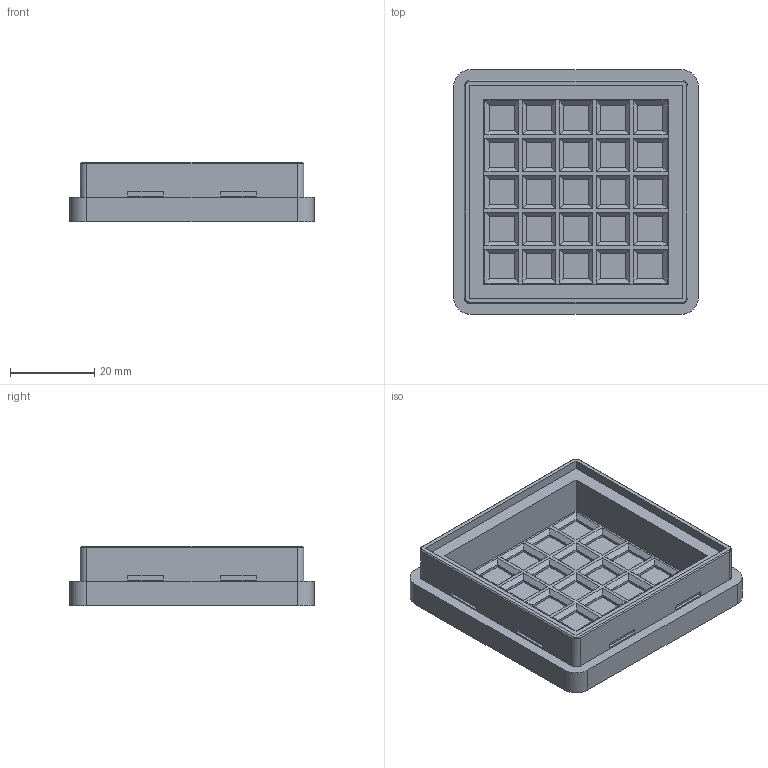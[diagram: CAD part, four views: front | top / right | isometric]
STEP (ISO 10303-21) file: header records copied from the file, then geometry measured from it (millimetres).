
FILE_DESCRIPTION(('FreeCAD Model'),'2;1');
FILE_NAME('Open CASCADE Shape Model','2026-10-03T19:08:30',('Author'),( ''),'Open CASCADE STEP processor 7.8','FreeCAD','Unknown');
FILE_SCHEMA(('AUTOMOTIVE_DESIGN { 1 0 10303 214 1 1 1 1 }'));
Length unit declared in the file: millimetre
Products named in the file (1): DiceBox_StrongLockV2_Base
Bounding box: 58 x 58 x 14.2 mm (x, y, z)
Volume: 18125.6 mm3; surface area: 12514.3 mm2
Topology: 1 solids, 1 shells, 427 faces, 984 edges, 620 vertices
Faces by surface type: bspline 427
Entity records: 10712 total; most frequent: CARTESIAN_POINT 4341, ORIENTED_EDGE 1968, EDGE_CURVE 984, B_SPLINE_CURVE_WITH_KNOTS 964, VERTEX_POINT 620, FACE_BOUND 488, EDGE_LOOP 488, ADVANCED_FACE 427
